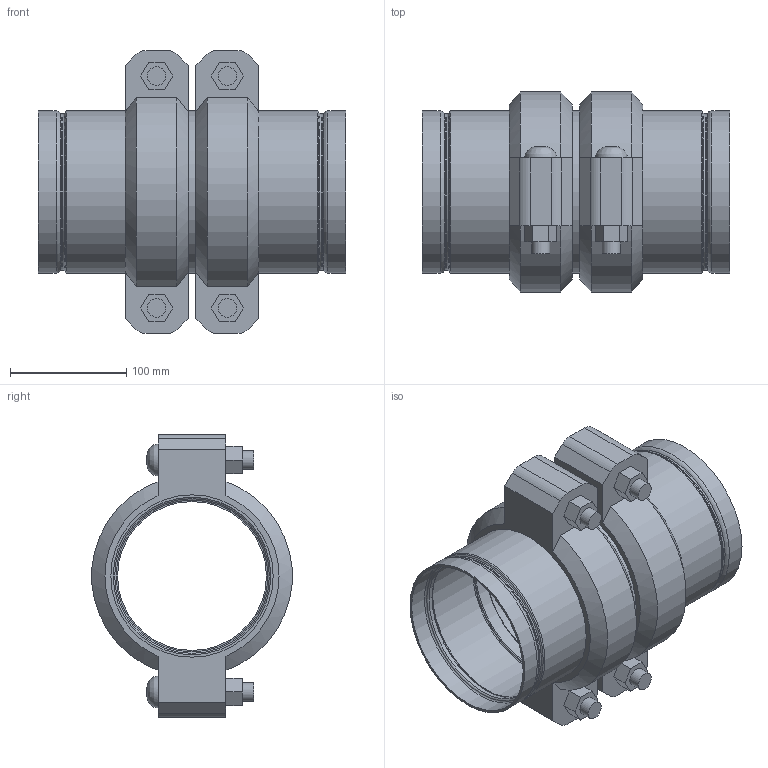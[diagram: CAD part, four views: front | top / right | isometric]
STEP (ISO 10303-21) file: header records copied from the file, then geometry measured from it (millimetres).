
FILE_DESCRIPTION(/* description */ ('VIC STRENGTHIN 100 EXPANSION JOINT 2 COUPLINGS COMPRESSED STYLE E155 (ST1)','CAx-IF Rec.Pracs.---Representation and Presentation of Product Manufacturing Information (PMI)---4.0---2014-10-13'),/* implementation_level */ '2;1');
FILE_NAME(/* name */ 'C:\Users\Vjadhav\AppData\Roaming\Autodesk\ApplicationPlugins\Victaulic.Temp\A523\Victaulic_SS-StrengThin 100_Expansion Joint_Compressed_2 Couplings_Style E155 (ST1)_05.0 (139.7) (125).stp',/* time_stamp */ '2021-07-23T12:29:15+06:00',/* author */ ('kkamble'),/* organization */ ('Victaulic'),/* preprocessor_version */ 'ST-DEVELOPER v17.2',/* originating_system */ 'Autodesk Inventor 2019',/* authorisation */ '');
FILE_SCHEMA (('AP242_MANAGED_MODEL_BASED_3D_ENGINEERING_MIM_LF { 1 0 10303 442 1 1 4 }'));
Length unit declared in the file: inch
Products named in the file (4): E155-05.0 (139.7); E494G-05.0 (139.7); Nipple-05.0 (139.7); 075-05.0 (139.7)
Assembly tree (5 placements, depth 2):
  E155-05.0 (139.7)
    E494G-05.0 (139.7)  x2
    Nipple-05.0 (139.7)
    075-05.0 (139.7)  x2
Bounding box: 264.41 x 172.14 x 243.59 mm (x, y, z)
Volume: 1578785 mm3; surface area: 437487.8 mm2
Topology: 5 solids, 9 shells, 186 faces, 506 edges, 362 vertices
Faces by surface type: plane 86, cylinder 52, torus 32, cone 12, bspline 4
Full cylindrical faces by diameter (mm): 15.875 x8, 17.424 x4, 128.194 x1, 130.505 x2, 131.47 x2, 134.518 x2, 135.484 x4, 135.687 x6, 139.7 x11
Entity records: 3599 total; most frequent: CARTESIAN_POINT 637, DIRECTION 635, ORIENTED_EDGE 536, AXIS2_PLACEMENT_3D 269, EDGE_CURVE 268, VERTEX_POINT 193, CIRCLE 163, EDGE_LOOP 123
